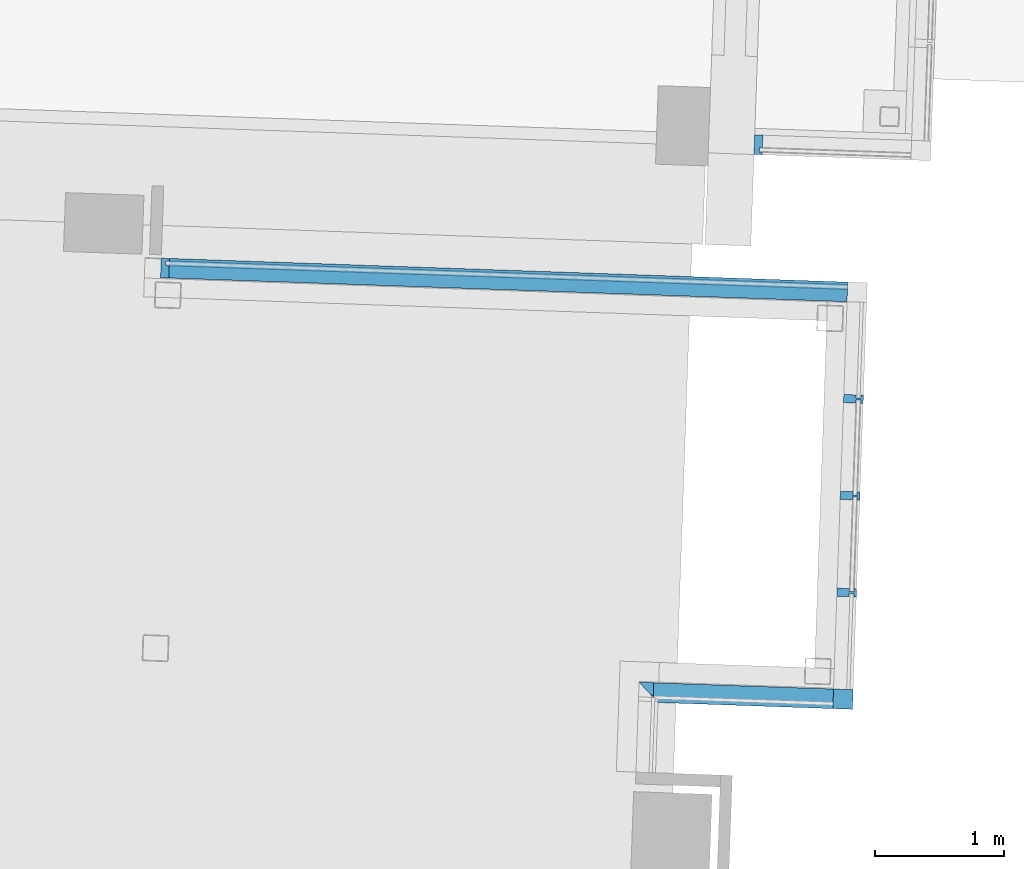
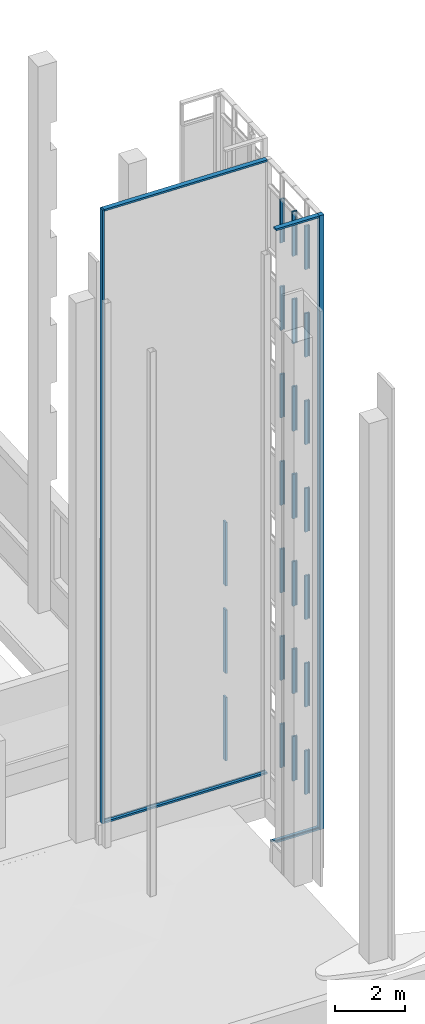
# One storey, part 9 of 44: 30 members, 4 elements without a shape of their own.
"""IFC2X3 building model written with IfcOpenShell, lengths in feet."""

from ifc_helpers import new_model, entity, si_unit, converted_unit, derived_unit, direction, frame, origin, origin_2d_with_axis, place, context, subcontext, project, spatial, polyline, rectangle, outline, extrude, clip, halfspace, material, type_object, element, aggregate, save


model = new_model("IFC2X3")

# Units and contexts
model_context = context("Model", 3, precision=0.0001, world=origin(), true_north=direction((0.999390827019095, 0.0348994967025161)))
body_context = subcontext(model_context, "Body", "Model", "MODEL_VIEW")
ifc_project = project(units=[converted_unit("LENGTHUNIT", "FOOT", entity("IfcRatioMeasure", 0.3048), si_unit("LENGTHUNIT", "METRE"), dimensions=[1, 0, 0, 0, 0, 0, 0]), converted_unit("AREAUNIT", "SQUARE FOOT", entity("IfcRatioMeasure", 0.09290304), si_unit("AREAUNIT", "SQUARE_METRE"), dimensions=[2, 0, 0, 0, 0, 0, 0]), converted_unit("VOLUMEUNIT", "CUBIC FOOT", entity("IfcRatioMeasure", 0.028316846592), si_unit("VOLUMEUNIT", "CUBIC_METRE"), dimensions=[3, 0, 0, 0, 0, 0, 0]), converted_unit("PLANEANGLEUNIT", "DEGREE", entity("IfcRatioMeasure", 0.0174532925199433), si_unit("PLANEANGLEUNIT", "RADIAN"), dimensions=[0, 0, 0, 0, 0, 0, 0]), si_unit("MASSUNIT", "GRAM", prefix="KILO"), si_unit("TIMEUNIT", "SECOND"), si_unit("FREQUENCYUNIT", "HERTZ"), si_unit("THERMODYNAMICTEMPERATUREUNIT", "DEGREE_CELSIUS"), derived_unit("THERMALTRANSMITTANCEUNIT", [(si_unit("MASSUNIT", "GRAM", prefix="KILO"), 1), (si_unit("THERMODYNAMICTEMPERATUREUNIT", "KELVIN"), -1), (si_unit("TIMEUNIT", "SECOND"), -3)]), derived_unit("VOLUMETRICFLOWRATEUNIT", [(si_unit("LENGTHUNIT", "METRE"), 3), (si_unit("TIMEUNIT", "SECOND"), -1)]), si_unit("ELECTRICCURRENTUNIT", "AMPERE"), si_unit("ELECTRICVOLTAGEUNIT", "VOLT"), si_unit("POWERUNIT", "WATT"), si_unit("FORCEUNIT", "NEWTON"), si_unit("ILLUMINANCEUNIT", "LUX"), si_unit("LUMINOUSFLUXUNIT", "LUMEN"), si_unit("LUMINOUSINTENSITYUNIT", "CANDELA"), derived_unit("USERDEFINED", [(si_unit("MASSUNIT", "GRAM", prefix="KILO"), -1), (si_unit("LENGTHUNIT", "METRE"), -2), (si_unit("TIMEUNIT", "SECOND"), 3), (si_unit("LUMINOUSFLUXUNIT", "LUMEN"), 1)]), derived_unit("LINEARVELOCITYUNIT", [(si_unit("LENGTHUNIT", "METRE"), 1), (si_unit("TIMEUNIT", "SECOND"), -1)]), si_unit("PRESSUREUNIT", "PASCAL"), derived_unit("USERDEFINED", [(si_unit("LENGTHUNIT", "METRE"), -2), (si_unit("MASSUNIT", "GRAM", prefix="KILO"), 1), (si_unit("TIMEUNIT", "SECOND"), -2)])], contexts=[model_context])

# Site, building, storey
site_placement = place(None, frame((892.518771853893, 322.38689265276, 0.00393700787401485), z_axis=(0.0, 0.0, 1.0), x_axis=(0.0348994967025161, 0.999390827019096, 0.0)))
site = spatial("IfcSite", under=ifc_project, at=site_placement, Name="Default", CompositionType="ELEMENT")
building_placement = place(site_placement, origin())
building = spatial("IfcBuilding", under=site, at=building_placement, CompositionType="ELEMENT")
storey_placement = place(building_placement, frame((0.0, 0.0, 544.75)))
storey = spatial("IfcBuildingStorey", under=building, at=storey_placement, Name="Exist Garage - Ground Level", CompositionType="ELEMENT", Elevation=544.75)

# Curtain wall, members
curtain_wall_type = type_object("IfcCurtainWallType", Name="Curtain Wall:(Existing) Curtainwall - Blank", PredefinedType="NOTDEFINED")
curtain_wall_1_placement = place(storey_placement, frame((0.0, 0.0, -544.75)))
curtain_wall_1 = element("IfcCurtainWall", 1, at=curtain_wall_1_placement, inside=storey, type_object=curtain_wall_type, Name="Curtain Wall:(Existing) Curtainwall - Blank", ObjectType="Curtain Wall:(Existing) Curtainwall - Blank")
ifc_material = material(Name="Metal - Aluminum")
member_1_placement = place(curtain_wall_1_placement, frame((0.0, 0.0, 544.75)))
member_1 = element("IfcMember", 2, at=member_1_placement, material=ifc_material, Name="Curtain Wall:(Existing) Curtainwall - Blank", ObjectType="Curtain Wall:(Existing) Curtainwall - Blank", context=body_context, shape_type="SweptSolid", body=[
    extrude(outline(polyline([(-0.0716145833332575, -0.312500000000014), (0.136718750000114, -0.312500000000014), (0.136718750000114, 0.187499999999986), (-0.0716145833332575, 0.187499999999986), (-0.0716145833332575, 0.124999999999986), (0.00651041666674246, 0.124999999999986), (0.00651041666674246, 0.0), (-0.0716145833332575, 0.0), (-0.0716145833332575, -0.312500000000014)])), frame((101.906463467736, 250.059101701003, 2.38671875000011), z_axis=(0.0, -1.0, 0.0), x_axis=(0.0, 0.0, -1.0)), (0.0, 0.0, 1.0), 17.2951482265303),
])
member_2_placement = place(curtain_wall_1_placement, frame((0.0, 0.0, 544.75)))
member_2 = element("IfcMember", 3, at=member_2_placement, material=ifc_material, Name="Curtain Wall:(Existing) Curtainwall - Blank", ObjectType="Curtain Wall:(Existing) Curtainwall - Blank", context=body_context, shape_type="SweptSolid", body=[
    extrude(outline(polyline([(-0.13671875, -0.187500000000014), (0.0716145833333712, -0.187500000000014), (0.0716145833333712, -0.125000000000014), (-0.00651041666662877, -0.125000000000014), (-0.00651041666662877, 0.0), (0.0716145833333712, 0.0), (0.0716145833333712, 0.312499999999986), (-0.13671875, 0.312499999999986), (-0.13671875, -0.187500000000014)])), frame((101.906463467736, 232.763953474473, 72.3216145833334), z_axis=(0.0, 1.0, 0.0), x_axis=(0.0, 0.0, -1.0)), (0.0, 0.0, 1.0), 17.2951482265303),
])
member_3_placement = place(curtain_wall_1_placement, frame((0.0, 0.0, 544.75)))
member_3 = element("IfcMember", 4, at=member_3_placement, material=ifc_material, Name="Curtain Wall:(Existing) Curtainwall - Blank", ObjectType="Curtain Wall:(Existing) Curtainwall - Blank", context=body_context, shape_type="SweptSolid", body=[
    extrude(outline(polyline([(0.0, -0.0716145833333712), (0.312500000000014, -0.0716145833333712), (0.312500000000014, 0.136718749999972), (-0.187499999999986, 0.136718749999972), (-0.187499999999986, -0.0716145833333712), (-0.124999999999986, -0.0716145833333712), (-0.124999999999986, 0.00651041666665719), (0.0, 0.00651041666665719), (0.0, -0.0716145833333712)])), frame((101.906463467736, 250.130716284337, 72.4583333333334), z_axis=(0.0, 0.0, -1.0), x_axis=(-1.0, 0.0, 0.0)), (0.0, 0.0, 1.0), 70.2083333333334),
])
aggregate(curtain_wall_1, [member_1, member_2, member_3])

curtain_wall_2_placement = place(storey_placement, frame((0.0, 0.0, -544.75)))
curtain_wall_2 = element("IfcCurtainWall", 5, at=curtain_wall_2_placement, inside=storey, type_object=curtain_wall_type, Name="Curtain Wall:(Existing) Curtainwall - Blank", ObjectType="Curtain Wall:(Existing) Curtainwall - Blank")
member_4_placement = place(curtain_wall_2_placement, frame((0.0, 0.0, 544.75)))
member_4 = element("IfcMember", 6, at=member_4_placement, material=ifc_material, Name="Curtain Wall:(Existing) Curtainwall - Blank", ObjectType="Curtain Wall:(Existing) Curtainwall - Blank", context=body_context, shape_type="SweptSolid", body=[
    extrude(outline(polyline([(-0.104166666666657, -0.333333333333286), (0.104166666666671, -0.333333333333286), (0.104166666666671, -0.020833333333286), (0.0260416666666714, -0.020833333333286), (0.0260416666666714, 0.104166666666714), (0.104166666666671, 0.104166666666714), (0.104166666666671, 0.166666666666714), (-0.104166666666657, 0.166666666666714), (-0.104166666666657, 0.104166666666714), (-0.0260416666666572, 0.104166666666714), (-0.0260416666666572, -0.020833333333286), (-0.104166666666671, -0.020833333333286), (-0.104166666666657, -0.333333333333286)])), frame((96.6564634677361, 232.43062014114, 4.5), z_axis=(0.0, 0.0, 1.0), x_axis=(-1.0, 0.0, 0.0)), (0.0, 0.0, 1.0), 5.10416666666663),
])
member_5_placement = place(curtain_wall_2_placement, frame((0.0, 0.0, 544.75)))
member_5 = element("IfcMember", 7, at=member_5_placement, material=ifc_material, Name="Curtain Wall:(Existing) Curtainwall - Blank", ObjectType="Curtain Wall:(Existing) Curtainwall - Blank", context=body_context, shape_type="SweptSolid", body=[
    extrude(outline(polyline([(-0.104166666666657, -0.333333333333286), (0.104166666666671, -0.333333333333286), (0.104166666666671, -0.020833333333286), (0.0260416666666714, -0.020833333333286), (0.0260416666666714, 0.104166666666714), (0.104166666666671, 0.104166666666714), (0.104166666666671, 0.166666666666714), (-0.104166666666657, 0.166666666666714), (-0.104166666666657, 0.104166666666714), (-0.0260416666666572, 0.104166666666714), (-0.0260416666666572, -0.020833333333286), (-0.104166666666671, -0.020833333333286), (-0.104166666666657, -0.333333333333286)])), frame((96.6564634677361, 232.43062014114, 54.5), z_axis=(0.0, 0.0, 1.0), x_axis=(-1.0, 0.0, 0.0)), (0.0, 0.0, 1.0), 5.10416666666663),
])
member_6_placement = place(curtain_wall_2_placement, frame((0.0, 0.0, 544.75)))
member_6 = element("IfcMember", 8, at=member_6_placement, material=ifc_material, Name="Curtain Wall:(Existing) Curtainwall - Blank", ObjectType="Curtain Wall:(Existing) Curtainwall - Blank", context=body_context, shape_type="SweptSolid", body=[
    extrude(outline(polyline([(-0.104166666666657, -0.333333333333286), (0.104166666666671, -0.333333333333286), (0.104166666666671, -0.020833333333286), (0.0260416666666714, -0.020833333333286), (0.0260416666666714, 0.104166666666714), (0.104166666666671, 0.104166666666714), (0.104166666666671, 0.166666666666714), (-0.104166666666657, 0.166666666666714), (-0.104166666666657, 0.104166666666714), (-0.0260416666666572, 0.104166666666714), (-0.0260416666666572, -0.020833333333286), (-0.104166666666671, -0.020833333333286), (-0.104166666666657, -0.333333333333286)])), frame((96.6564634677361, 232.43062014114, 44.5), z_axis=(0.0, 0.0, 1.0), x_axis=(-1.0, 0.0, 0.0)), (0.0, 0.0, 1.0), 5.10416666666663),
])
member_7_placement = place(curtain_wall_2_placement, frame((0.0, 0.0, 544.75)))
member_7 = element("IfcMember", 9, at=member_7_placement, material=ifc_material, Name="Curtain Wall:(Existing) Curtainwall - Blank", ObjectType="Curtain Wall:(Existing) Curtainwall - Blank", context=body_context, shape_type="SweptSolid", body=[
    extrude(outline(polyline([(-0.104166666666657, -0.333333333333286), (0.104166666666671, -0.333333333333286), (0.104166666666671, -0.020833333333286), (0.0260416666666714, -0.020833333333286), (0.0260416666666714, 0.104166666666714), (0.104166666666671, 0.104166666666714), (0.104166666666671, 0.166666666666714), (-0.104166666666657, 0.166666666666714), (-0.104166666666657, 0.104166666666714), (-0.0260416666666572, 0.104166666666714), (-0.0260416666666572, -0.020833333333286), (-0.104166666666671, -0.020833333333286), (-0.104166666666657, -0.333333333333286)])), frame((96.6564634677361, 232.43062014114, 64.5), z_axis=(0.0, 0.0, 1.0), x_axis=(-1.0, 0.0, 0.0)), (0.0, 0.0, 1.0), 5.10416666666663),
])
member_8_placement = place(curtain_wall_2_placement, frame((0.0, 0.0, 544.75)))
member_8 = element("IfcMember", 10, at=member_8_placement, material=ifc_material, Name="Curtain Wall:(Existing) Curtainwall - Blank", ObjectType="Curtain Wall:(Existing) Curtainwall - Blank", context=body_context, shape_type="SweptSolid", body=[
    extrude(outline(polyline([(-0.104166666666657, -0.333333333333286), (0.104166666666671, -0.333333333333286), (0.104166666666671, -0.020833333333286), (0.0260416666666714, -0.020833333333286), (0.0260416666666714, 0.104166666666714), (0.104166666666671, 0.104166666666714), (0.104166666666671, 0.166666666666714), (-0.104166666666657, 0.166666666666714), (-0.104166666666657, 0.104166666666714), (-0.0260416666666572, 0.104166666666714), (-0.0260416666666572, -0.020833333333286), (-0.104166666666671, -0.020833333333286), (-0.104166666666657, -0.333333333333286)])), frame((96.6564634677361, 232.43062014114, 14.5), z_axis=(0.0, 0.0, 1.0), x_axis=(-1.0, 0.0, 0.0)), (0.0, 0.0, 1.0), 5.10416666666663),
])
member_9_placement = place(curtain_wall_2_placement, frame((0.0, 0.0, 544.75)))
member_9 = element("IfcMember", 11, at=member_9_placement, material=ifc_material, Name="Curtain Wall:(Existing) Curtainwall - Blank", ObjectType="Curtain Wall:(Existing) Curtainwall - Blank", context=body_context, shape_type="SweptSolid", body=[
    extrude(outline(polyline([(-0.104166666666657, -0.333333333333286), (0.104166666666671, -0.333333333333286), (0.104166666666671, -0.020833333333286), (0.0260416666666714, -0.020833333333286), (0.0260416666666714, 0.104166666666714), (0.104166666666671, 0.104166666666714), (0.104166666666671, 0.166666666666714), (-0.104166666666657, 0.166666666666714), (-0.104166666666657, 0.104166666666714), (-0.0260416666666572, 0.104166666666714), (-0.0260416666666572, -0.020833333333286), (-0.104166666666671, -0.020833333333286), (-0.104166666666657, -0.333333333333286)])), frame((96.6564634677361, 232.43062014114, 34.5), z_axis=(0.0, 0.0, 1.0), x_axis=(-1.0, 0.0, 0.0)), (0.0, 0.0, 1.0), 5.10416666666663),
])
member_10_placement = place(curtain_wall_2_placement, frame((0.0, 0.0, 544.75)))
member_10 = element("IfcMember", 12, at=member_10_placement, material=ifc_material, Name="Curtain Wall:(Existing) Curtainwall - Blank", ObjectType="Curtain Wall:(Existing) Curtainwall - Blank", context=body_context, shape_type="SweptSolid", body=[
    extrude(outline(polyline([(-0.104166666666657, -0.333333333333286), (0.104166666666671, -0.333333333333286), (0.104166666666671, -0.020833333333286), (0.0260416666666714, -0.020833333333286), (0.0260416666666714, 0.104166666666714), (0.104166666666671, 0.104166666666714), (0.104166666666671, 0.166666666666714), (-0.104166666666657, 0.166666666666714), (-0.104166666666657, 0.104166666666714), (-0.0260416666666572, 0.104166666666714), (-0.0260416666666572, -0.020833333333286), (-0.104166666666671, -0.020833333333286), (-0.104166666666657, -0.333333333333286)])), frame((96.6564634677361, 232.43062014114, 24.5), z_axis=(0.0, 0.0, 1.0), x_axis=(-1.0, 0.0, 0.0)), (0.0, 0.0, 1.0), 5.10416666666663),
])
member_11_placement = place(curtain_wall_2_placement, frame((0.0, 0.0, 544.75)))
member_11 = element("IfcMember", 13, at=member_11_placement, material=ifc_material, Name="Curtain Wall:(Existing) Curtainwall - Blank", ObjectType="Curtain Wall:(Existing) Curtainwall - Blank", context=body_context, shape_type="SweptSolid", body=[
    extrude(outline(polyline([(-0.104166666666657, -0.333333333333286), (0.104166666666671, -0.333333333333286), (0.104166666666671, -0.020833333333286), (0.0260416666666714, -0.020833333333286), (0.0260416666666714, 0.104166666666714), (0.104166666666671, 0.104166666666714), (0.104166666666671, 0.166666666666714), (-0.104166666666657, 0.166666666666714), (-0.104166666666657, 0.104166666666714), (-0.0260416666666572, 0.104166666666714), (-0.0260416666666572, -0.020833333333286), (-0.104166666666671, -0.020833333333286), (-0.104166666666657, -0.333333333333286)])), frame((94.1877134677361, 232.43062014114, 44.5), z_axis=(0.0, 0.0, 1.0), x_axis=(-1.0, 0.0, 0.0)), (0.0, 0.0, 1.0), 5.0),
])
member_12_placement = place(curtain_wall_2_placement, frame((0.0, 0.0, 544.75)))
member_12 = element("IfcMember", 14, at=member_12_placement, material=ifc_material, Name="Curtain Wall:(Existing) Curtainwall - Blank", ObjectType="Curtain Wall:(Existing) Curtainwall - Blank", context=body_context, shape_type="SweptSolid", body=[
    extrude(outline(polyline([(-0.104166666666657, -0.333333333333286), (0.104166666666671, -0.333333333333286), (0.104166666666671, -0.020833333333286), (0.0260416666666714, -0.020833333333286), (0.0260416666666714, 0.104166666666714), (0.104166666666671, 0.104166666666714), (0.104166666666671, 0.166666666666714), (-0.104166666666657, 0.166666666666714), (-0.104166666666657, 0.104166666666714), (-0.0260416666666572, 0.104166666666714), (-0.0260416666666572, -0.020833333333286), (-0.104166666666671, -0.020833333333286), (-0.104166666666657, -0.333333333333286)])), frame((94.1877134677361, 232.43062014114, 34.5), z_axis=(0.0, 0.0, 1.0), x_axis=(-1.0, 0.0, 0.0)), (0.0, 0.0, 1.0), 5.0),
])
member_13_placement = place(curtain_wall_2_placement, frame((0.0, 0.0, 544.75)))
member_13 = element("IfcMember", 15, at=member_13_placement, material=ifc_material, Name="Curtain Wall:(Existing) Curtainwall - Blank", ObjectType="Curtain Wall:(Existing) Curtainwall - Blank", context=body_context, shape_type="SweptSolid", body=[
    extrude(outline(polyline([(-0.104166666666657, -0.333333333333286), (0.104166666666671, -0.333333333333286), (0.104166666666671, -0.020833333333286), (0.0260416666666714, -0.020833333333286), (0.0260416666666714, 0.104166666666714), (0.104166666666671, 0.104166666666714), (0.104166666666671, 0.166666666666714), (-0.104166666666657, 0.166666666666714), (-0.104166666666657, 0.104166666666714), (-0.0260416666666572, 0.104166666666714), (-0.0260416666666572, -0.020833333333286), (-0.104166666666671, -0.020833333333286), (-0.104166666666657, -0.333333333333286)])), frame((94.1877134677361, 232.43062014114, 14.5), z_axis=(0.0, 0.0, 1.0), x_axis=(-1.0, 0.0, 0.0)), (0.0, 0.0, 1.0), 5.0),
])
member_14_placement = place(curtain_wall_2_placement, frame((0.0, 0.0, 544.75)))
member_14 = element("IfcMember", 16, at=member_14_placement, material=ifc_material, Name="Curtain Wall:(Existing) Curtainwall - Blank", ObjectType="Curtain Wall:(Existing) Curtainwall - Blank", context=body_context, shape_type="SweptSolid", body=[
    extrude(outline(polyline([(-0.104166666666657, -0.333333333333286), (0.104166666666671, -0.333333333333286), (0.104166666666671, -0.020833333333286), (0.0260416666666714, -0.020833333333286), (0.0260416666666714, 0.104166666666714), (0.104166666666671, 0.104166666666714), (0.104166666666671, 0.166666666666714), (-0.104166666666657, 0.166666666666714), (-0.104166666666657, 0.104166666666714), (-0.0260416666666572, 0.104166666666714), (-0.0260416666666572, -0.020833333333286), (-0.104166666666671, -0.020833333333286), (-0.104166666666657, -0.333333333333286)])), frame((94.1877134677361, 232.43062014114, 24.5), z_axis=(0.0, 0.0, 1.0), x_axis=(-1.0, 0.0, 0.0)), (0.0, 0.0, 1.0), 5.0),
])
member_15_placement = place(curtain_wall_2_placement, frame((0.0, 0.0, 544.75)))
member_15 = element("IfcMember", 17, at=member_15_placement, material=ifc_material, Name="Curtain Wall:(Existing) Curtainwall - Blank", ObjectType="Curtain Wall:(Existing) Curtainwall - Blank", context=body_context, shape_type="SweptSolid", body=[
    extrude(outline(polyline([(-0.104166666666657, -0.333333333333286), (0.104166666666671, -0.333333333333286), (0.104166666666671, -0.020833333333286), (0.0260416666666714, -0.020833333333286), (0.0260416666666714, 0.104166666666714), (0.104166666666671, 0.104166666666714), (0.104166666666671, 0.166666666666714), (-0.104166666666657, 0.166666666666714), (-0.104166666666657, 0.104166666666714), (-0.0260416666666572, 0.104166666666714), (-0.0260416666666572, -0.020833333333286), (-0.104166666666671, -0.020833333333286), (-0.104166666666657, -0.333333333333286)])), frame((94.1877134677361, 232.43062014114, 54.5), z_axis=(0.0, 0.0, 1.0), x_axis=(-1.0, 0.0, 0.0)), (0.0, 0.0, 1.0), 5.0),
])
member_16_placement = place(curtain_wall_2_placement, frame((0.0, 0.0, 544.75)))
member_16 = element("IfcMember", 18, at=member_16_placement, material=ifc_material, Name="Curtain Wall:(Existing) Curtainwall - Blank", ObjectType="Curtain Wall:(Existing) Curtainwall - Blank", context=body_context, shape_type="SweptSolid", body=[
    extrude(outline(polyline([(-0.104166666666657, -0.333333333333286), (0.104166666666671, -0.333333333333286), (0.104166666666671, -0.020833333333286), (0.0260416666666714, -0.020833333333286), (0.0260416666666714, 0.104166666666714), (0.104166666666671, 0.104166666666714), (0.104166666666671, 0.166666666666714), (-0.104166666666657, 0.166666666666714), (-0.104166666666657, 0.104166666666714), (-0.0260416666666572, 0.104166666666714), (-0.0260416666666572, -0.020833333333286), (-0.104166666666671, -0.020833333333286), (-0.104166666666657, -0.333333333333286)])), frame((94.1877134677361, 232.43062014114, 64.5), z_axis=(0.0, 0.0, 1.0), x_axis=(-1.0, 0.0, 0.0)), (0.0, 0.0, 1.0), 5.0),
])
member_17_placement = place(curtain_wall_2_placement, frame((0.0, 0.0, 544.75)))
member_17 = element("IfcMember", 19, at=member_17_placement, material=ifc_material, Name="Curtain Wall:(Existing) Curtainwall - Blank", ObjectType="Curtain Wall:(Existing) Curtainwall - Blank", context=body_context, shape_type="SweptSolid", body=[
    extrude(outline(polyline([(-0.104166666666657, -0.333333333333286), (0.104166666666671, -0.333333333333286), (0.104166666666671, -0.020833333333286), (0.0260416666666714, -0.020833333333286), (0.0260416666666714, 0.104166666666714), (0.104166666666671, 0.104166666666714), (0.104166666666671, 0.166666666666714), (-0.104166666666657, 0.166666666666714), (-0.104166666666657, 0.104166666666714), (-0.0260416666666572, 0.104166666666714), (-0.0260416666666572, -0.020833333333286), (-0.104166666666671, -0.020833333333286), (-0.104166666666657, -0.333333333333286)])), frame((94.1877134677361, 232.43062014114, 4.5), z_axis=(0.0, 0.0, 1.0), x_axis=(-1.0, 0.0, 0.0)), (0.0, 0.0, 1.0), 5.0),
])
member_18_placement = place(curtain_wall_2_placement, frame((0.0, 0.0, 544.75)))
member_18 = element("IfcMember", 20, at=member_18_placement, material=ifc_material, Name="Curtain Wall:(Existing) Curtainwall - Blank", ObjectType="Curtain Wall:(Existing) Curtainwall - Blank", context=body_context, shape_type="SweptSolid", body=[
    extrude(outline(polyline([(-0.104166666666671, -0.333333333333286), (0.104166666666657, -0.333333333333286), (0.104166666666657, -0.020833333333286), (0.0260416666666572, -0.020833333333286), (0.0260416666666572, 0.104166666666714), (0.104166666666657, 0.104166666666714), (0.104166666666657, 0.166666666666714), (-0.104166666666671, 0.166666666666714), (-0.104166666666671, 0.104166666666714), (-0.0260416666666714, 0.104166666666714), (-0.0260416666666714, -0.020833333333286), (-0.104166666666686, -0.020833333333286), (-0.104166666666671, -0.333333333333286)])), frame((99.1252134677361, 232.43062014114, 14.5), z_axis=(0.0, 0.0, 1.0), x_axis=(-1.0, 0.0, 0.0)), (0.0, 0.0, 1.0), 5.0),
])
member_19_placement = place(curtain_wall_2_placement, frame((0.0, 0.0, 544.75)))
member_19 = element("IfcMember", 21, at=member_19_placement, material=ifc_material, Name="Curtain Wall:(Existing) Curtainwall - Blank", ObjectType="Curtain Wall:(Existing) Curtainwall - Blank", context=body_context, shape_type="SweptSolid", body=[
    extrude(outline(polyline([(-0.104166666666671, -0.333333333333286), (0.104166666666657, -0.333333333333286), (0.104166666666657, -0.020833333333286), (0.0260416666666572, -0.020833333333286), (0.0260416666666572, 0.104166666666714), (0.104166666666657, 0.104166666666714), (0.104166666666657, 0.166666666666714), (-0.104166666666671, 0.166666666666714), (-0.104166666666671, 0.104166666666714), (-0.0260416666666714, 0.104166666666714), (-0.0260416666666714, -0.020833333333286), (-0.104166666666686, -0.020833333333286), (-0.104166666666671, -0.333333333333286)])), frame((99.1252134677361, 232.43062014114, 24.5), z_axis=(0.0, 0.0, 1.0), x_axis=(-1.0, 0.0, 0.0)), (0.0, 0.0, 1.0), 5.0),
])
member_20_placement = place(curtain_wall_2_placement, frame((0.0, 0.0, 544.75)))
member_20 = element("IfcMember", 22, at=member_20_placement, material=ifc_material, Name="Curtain Wall:(Existing) Curtainwall - Blank", ObjectType="Curtain Wall:(Existing) Curtainwall - Blank", context=body_context, shape_type="SweptSolid", body=[
    extrude(outline(polyline([(-0.104166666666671, -0.333333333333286), (0.104166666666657, -0.333333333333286), (0.104166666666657, -0.020833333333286), (0.0260416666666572, -0.020833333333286), (0.0260416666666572, 0.104166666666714), (0.104166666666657, 0.104166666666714), (0.104166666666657, 0.166666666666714), (-0.104166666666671, 0.166666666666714), (-0.104166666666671, 0.104166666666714), (-0.0260416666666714, 0.104166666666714), (-0.0260416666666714, -0.020833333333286), (-0.104166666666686, -0.020833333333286), (-0.104166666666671, -0.333333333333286)])), frame((99.1252134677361, 232.43062014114, 34.5), z_axis=(0.0, 0.0, 1.0), x_axis=(-1.0, 0.0, 0.0)), (0.0, 0.0, 1.0), 5.0),
])
member_21_placement = place(curtain_wall_2_placement, frame((0.0, 0.0, 544.75)))
member_21 = element("IfcMember", 23, at=member_21_placement, material=ifc_material, Name="Curtain Wall:(Existing) Curtainwall - Blank", ObjectType="Curtain Wall:(Existing) Curtainwall - Blank", context=body_context, shape_type="SweptSolid", body=[
    extrude(outline(polyline([(-0.104166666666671, -0.333333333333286), (0.104166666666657, -0.333333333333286), (0.104166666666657, -0.020833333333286), (0.0260416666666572, -0.020833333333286), (0.0260416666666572, 0.104166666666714), (0.104166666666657, 0.104166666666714), (0.104166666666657, 0.166666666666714), (-0.104166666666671, 0.166666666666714), (-0.104166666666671, 0.104166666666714), (-0.0260416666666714, 0.104166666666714), (-0.0260416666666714, -0.020833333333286), (-0.104166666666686, -0.020833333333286), (-0.104166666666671, -0.333333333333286)])), frame((99.1252134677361, 232.43062014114, 44.5), z_axis=(0.0, 0.0, 1.0), x_axis=(-1.0, 0.0, 0.0)), (0.0, 0.0, 1.0), 5.0),
])
member_22_placement = place(curtain_wall_2_placement, frame((0.0, 0.0, 544.75)))
member_22 = element("IfcMember", 24, at=member_22_placement, material=ifc_material, Name="Curtain Wall:(Existing) Curtainwall - Blank", ObjectType="Curtain Wall:(Existing) Curtainwall - Blank", context=body_context, shape_type="SweptSolid", body=[
    extrude(outline(polyline([(-0.104166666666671, -0.333333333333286), (0.104166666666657, -0.333333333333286), (0.104166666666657, -0.020833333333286), (0.0260416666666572, -0.020833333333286), (0.0260416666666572, 0.104166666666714), (0.104166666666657, 0.104166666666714), (0.104166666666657, 0.166666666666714), (-0.104166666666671, 0.166666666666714), (-0.104166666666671, 0.104166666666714), (-0.0260416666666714, 0.104166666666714), (-0.0260416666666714, -0.020833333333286), (-0.104166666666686, -0.020833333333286), (-0.104166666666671, -0.333333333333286)])), frame((99.1252134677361, 232.43062014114, 54.5), z_axis=(0.0, 0.0, 1.0), x_axis=(-1.0, 0.0, 0.0)), (0.0, 0.0, 1.0), 5.0),
])
member_23_placement = place(curtain_wall_2_placement, frame((0.0, 0.0, 544.75)))
member_23 = element("IfcMember", 25, at=member_23_placement, material=ifc_material, Name="Curtain Wall:(Existing) Curtainwall - Blank", ObjectType="Curtain Wall:(Existing) Curtainwall - Blank", context=body_context, shape_type="SweptSolid", body=[
    extrude(outline(polyline([(-0.104166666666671, -0.333333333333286), (0.104166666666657, -0.333333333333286), (0.104166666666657, -0.020833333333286), (0.0260416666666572, -0.020833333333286), (0.0260416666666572, 0.104166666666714), (0.104166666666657, 0.104166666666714), (0.104166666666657, 0.166666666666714), (-0.104166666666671, 0.166666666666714), (-0.104166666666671, 0.104166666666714), (-0.0260416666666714, 0.104166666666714), (-0.0260416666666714, -0.020833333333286), (-0.104166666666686, -0.020833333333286), (-0.104166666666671, -0.333333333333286)])), frame((99.1252134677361, 232.43062014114, 64.5), z_axis=(0.0, 0.0, 1.0), x_axis=(-1.0, 0.0, 0.0)), (0.0, 0.0, 1.0), 5.0),
])
member_24_placement = place(curtain_wall_2_placement, frame((0.0, 0.0, 544.75)))
member_24 = element("IfcMember", 26, at=member_24_placement, material=ifc_material, Name="Curtain Wall:(Existing) Curtainwall - Blank", ObjectType="Curtain Wall:(Existing) Curtainwall - Blank", context=body_context, shape_type="SweptSolid", body=[
    extrude(outline(polyline([(-0.104166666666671, -0.333333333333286), (0.104166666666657, -0.333333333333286), (0.104166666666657, -0.020833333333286), (0.0260416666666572, -0.020833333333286), (0.0260416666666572, 0.104166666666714), (0.104166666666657, 0.104166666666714), (0.104166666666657, 0.166666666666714), (-0.104166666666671, 0.166666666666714), (-0.104166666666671, 0.104166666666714), (-0.0260416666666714, 0.104166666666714), (-0.0260416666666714, -0.020833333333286), (-0.104166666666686, -0.020833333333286), (-0.104166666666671, -0.333333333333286)])), frame((99.1252134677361, 232.43062014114, 4.5), z_axis=(0.0, 0.0, 1.0), x_axis=(-1.0, 0.0, 0.0)), (0.0, 0.0, 1.0), 5.0),
])
aggregate(curtain_wall_2, [member_4, member_5, member_6, member_7, member_8, member_9, member_10, member_11, member_12, member_13, member_14, member_15, member_16, member_17, member_18, member_19, member_20, member_21, member_22, member_23, member_24])

curtain_wall_3_placement = place(storey_placement, frame((0.0, 0.0, -544.75)))
curtain_wall_3 = element("IfcCurtainWall", 27, at=curtain_wall_3_placement, inside=storey, type_object=curtain_wall_type, Name="Curtain Wall:(Existing) Curtainwall - Blank", ObjectType="Curtain Wall:(Existing) Curtainwall - Blank")
member_25_placement = place(curtain_wall_3_placement, frame((0.0, 0.0, 544.75)))
member_25 = element("IfcMember", 28, at=member_25_placement, material=ifc_material, Name="Curtain Wall:(Existing) Curtainwall - Blank", ObjectType="Curtain Wall:(Existing) Curtainwall - Blank", context=body_context, shape_type="Clipping", body=[
    clip(extrude(outline(polyline([(-0.0716145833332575, -0.312500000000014), (0.136718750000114, -0.312500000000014), (0.136718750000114, 0.187499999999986), (-0.0716145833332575, 0.187499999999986), (-0.0716145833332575, 0.124999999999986), (0.00651041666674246, 0.124999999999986), (0.00651041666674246, 0.0), (-0.0716145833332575, 0.0), (-0.0716145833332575, -0.312500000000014)])), frame((91.4064634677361, 232.763953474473, 2.38671875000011), z_axis=(0.0, 1.0, 0.0), x_axis=(0.0, 0.0, -1.0)), (0.0, 0.0, 1.0), 4.95833333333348), halfspace(frame((91.3439634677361, 237.347286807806, 1.25), z_axis=(-0.707106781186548, 0.707106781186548, 0.0), x_axis=(0.707106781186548, 0.707106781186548, 0.0)), False)),
])
member_26_placement = place(curtain_wall_3_placement, frame((0.0, 0.0, 544.75)))
member_26 = element("IfcMember", 29, at=member_26_placement, material=ifc_material, Name="Curtain Wall:(Existing) Curtainwall - Blank", ObjectType="Curtain Wall:(Existing) Curtainwall - Blank", context=body_context, shape_type="SweptSolid", body=[
    extrude(outline(polyline([(-0.13671875, -0.187499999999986), (0.0716145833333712, -0.187499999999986), (0.0716145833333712, -0.124999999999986), (-0.00651041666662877, -0.124999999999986), (-0.00651041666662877, 0.0), (0.0716145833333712, 0.0), (0.0716145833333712, 0.312500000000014), (-0.13671875, 0.312500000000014), (-0.13671875, -0.187499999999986)])), frame((91.4064634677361, 237.347286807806, 72.3216145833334), z_axis=(0.0, -1.0, 0.0), x_axis=(0.0, 0.0, -1.0)), (0.0, 0.0, 1.0), 4.58333333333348),
])
member_27_placement = place(curtain_wall_3_placement, frame((0.0, 0.0, 544.75)))
member_27 = element("IfcMember", 30, at=member_27_placement, material=ifc_material, Name="Curtain Wall:(Existing) Curtainwall - Blank", ObjectType="Curtain Wall:(Existing) Curtainwall - Blank", context=body_context, shape_type="SweptSolid", body=[
    extrude(rectangle(XDim=0.5, YDim=0.5, at=origin_2d_with_axis()), frame((91.4689634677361, 232.513953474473, 72.4583333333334), z_axis=(0.0, 0.0, -1.0), x_axis=(-1.0, 0.0, 0.0)), (0.0, 0.0, 1.0), 70.2083333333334),
])
aggregate(curtain_wall_3, [member_25, member_26, member_27])

curtain_wall_4_placement = place(storey_placement, frame((0.0, 0.0, -544.75)))
curtain_wall_4 = element("IfcCurtainWall", 31, at=curtain_wall_4_placement, inside=storey, type_object=curtain_wall_type, Name="Curtain Wall:(Existing) Curtainwall - Blank", ObjectType="Curtain Wall:(Existing) Curtainwall - Blank")
member_28_placement = place(curtain_wall_4_placement, frame((0.0, 0.0, 544.75)))
member_28 = element("IfcMember", 32, at=member_28_placement, material=ifc_material, Name="Curtain Wall:(Existing) Curtainwall - Blank", ObjectType="Curtain Wall:(Existing) Curtainwall - Blank", context=body_context, shape_type="SweptSolid", body=[
    extrude(outline(polyline([(0.125, -0.0716145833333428), (0.1875, -0.0716145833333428), (0.1875, 0.13671875), (-0.3125, 0.13671875), (-0.3125, -0.0716145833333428), (0.0, -0.0716145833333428), (0.0, 0.00651041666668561), (0.125, 0.00651041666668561), (0.125, -0.0716145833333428)])), frame((105.448126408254, 235.127234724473, 9.5), z_axis=(0.0, 0.0, -1.0), x_axis=(-1.0, 0.0, 0.0)), (0.0, 0.0, 1.0), 7.25),
])
member_29_placement = place(curtain_wall_4_placement, frame((0.0, 0.0, 544.75)))
member_29 = element("IfcMember", 33, at=member_29_placement, material=ifc_material, Name="Curtain Wall:(Existing) Curtainwall - Blank", ObjectType="Curtain Wall:(Existing) Curtainwall - Blank", context=body_context, shape_type="SweptSolid", body=[
    extrude(outline(polyline([(0.125, -0.0716145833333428), (0.1875, -0.0716145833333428), (0.1875, 0.13671875), (-0.3125, 0.13671875), (-0.3125, -0.0716145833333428), (0.0, -0.0716145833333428), (0.0, 0.00651041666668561), (0.125, 0.00651041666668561), (0.125, -0.0716145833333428)])), frame((105.448126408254, 235.127234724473, 19.5), z_axis=(0.0, 0.0, -1.0), x_axis=(-1.0, 0.0, 0.0)), (0.0, 0.0, 1.0), 7.25),
])
member_30_placement = place(curtain_wall_4_placement, frame((0.0, 0.0, 544.75)))
member_30 = element("IfcMember", 34, at=member_30_placement, material=ifc_material, Name="Curtain Wall:(Existing) Curtainwall - Blank", ObjectType="Curtain Wall:(Existing) Curtainwall - Blank", context=body_context, shape_type="SweptSolid", body=[
    extrude(outline(polyline([(0.125, -0.0716145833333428), (0.1875, -0.0716145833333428), (0.1875, 0.13671875), (-0.3125, 0.13671875), (-0.3125, -0.0716145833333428), (0.0, -0.0716145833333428), (0.0, 0.00651041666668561), (0.125, 0.00651041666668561), (0.125, -0.0716145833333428)])), frame((105.448126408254, 235.127234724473, 29.5), z_axis=(0.0, 0.0, -1.0), x_axis=(-1.0, 0.0, 0.0)), (0.0, 0.0, 1.0), 7.25),
])
aggregate(curtain_wall_4, [member_28, member_29, member_30])

save(model, "model.ifc")
